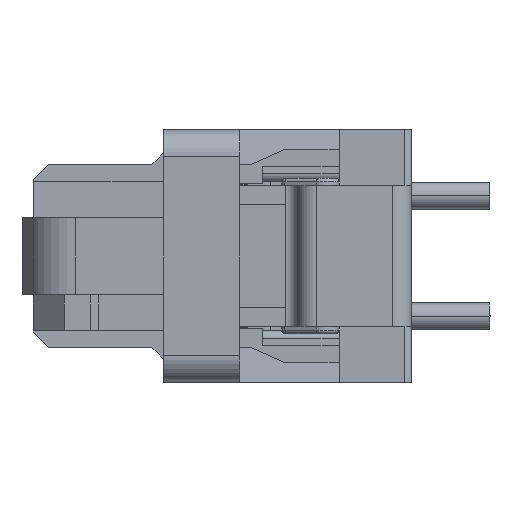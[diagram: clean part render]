
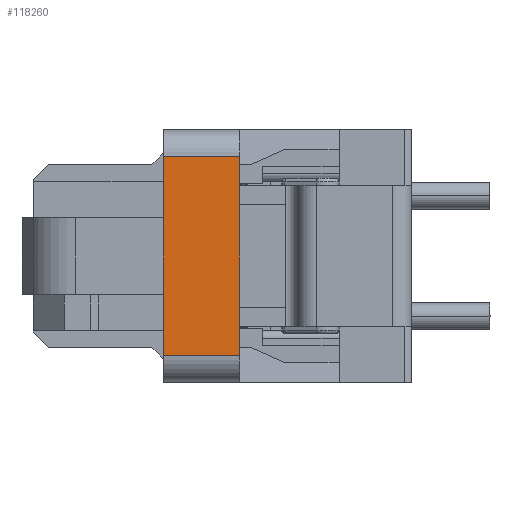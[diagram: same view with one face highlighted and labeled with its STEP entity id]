
A CAD part, left-side view. The second image highlights one B-rep face of the part: STEP entity #118260.
In plain terms, the highlighted planar face has unit normal (-1, 0, 0) as drawn and (1, 0, 0) by its records, which use the part's own axes.
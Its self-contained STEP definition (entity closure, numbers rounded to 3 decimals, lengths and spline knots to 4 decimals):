
#117480=CARTESIAN_POINT('',(26.78,2.6,
5.4));
#117490=VERTEX_POINT('',#117480);
#117520=CARTESIAN_POINT('',(26.78,0.,5.4)
);
#117530=DIRECTION('',(0.,-1.,0.));
#117540=VECTOR('',#117530,1.);
#117550=LINE('',#117520,#117540);
#117560=CARTESIAN_POINT('',(26.78,-2.6,
5.4));
#117570=VERTEX_POINT('',#117560);
#117580=EDGE_CURVE('',#117490,#117570,#117550,.T.);
#117900=CARTESIAN_POINT('',(26.78,2.6,
3.4));
#117910=VERTEX_POINT('',#117900);
#117940=CARTESIAN_POINT('',(26.78,2.6,
3.4));
#117950=DIRECTION('',(0.,0.,1.));
#117960=VECTOR('',#117950,1.);
#117970=LINE('',#117940,#117960);
#117980=EDGE_CURVE('',#117910,#117490,#117970,.T.);
#118030=CARTESIAN_POINT('',(26.78,2.7302,5.4502));
#118040=DIRECTION('',(1.,0.,0.));
#118050=DIRECTION('',(0.,-1.,0.));
#118060=AXIS2_PLACEMENT_3D('',#118030,#118040,#118050);
#118070=PLANE('',#118060);
#118080=CARTESIAN_POINT('',(26.78,0.,3.4)
);
#118090=DIRECTION('',(0.,1.,0.));
#118100=VECTOR('',#118090,1.);
#118110=LINE('',#118080,#118100);
#118120=CARTESIAN_POINT('',(26.78,-2.6,
3.4));
#118130=VERTEX_POINT('',#118120);
#118140=EDGE_CURVE('',#118130,#117910,#118110,.T.);
#118150=ORIENTED_EDGE('',*,*,#118140,.T.);
#118160=CARTESIAN_POINT('',(26.78,-2.6,
3.4));
#118170=DIRECTION('',(0.,0.,1.));
#118180=VECTOR('',#118170,1.);
#118190=LINE('',#118160,#118180);
#118200=EDGE_CURVE('',#118130,#117570,#118190,.T.);
#118210=ORIENTED_EDGE('',*,*,#118200,.F.);
#118220=ORIENTED_EDGE('',*,*,#117580,.T.);
#118230=ORIENTED_EDGE('',*,*,#117980,.T.);
#118240=EDGE_LOOP('',(#118230,#118220,#118210,#118150));
#118250=FACE_OUTER_BOUND('',#118240,.T.);
#118260=ADVANCED_FACE('',(#118250),#118070,.T.);
